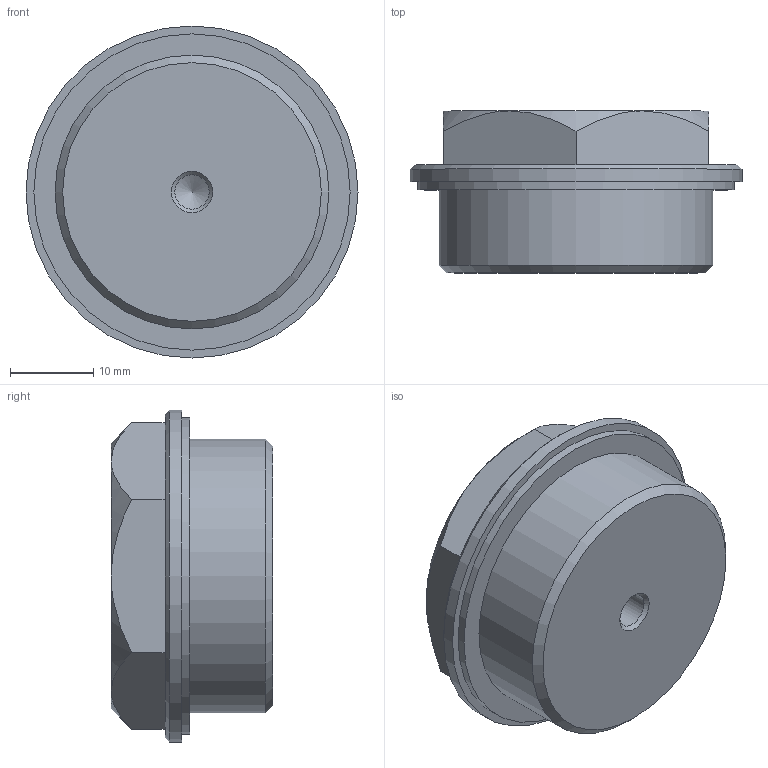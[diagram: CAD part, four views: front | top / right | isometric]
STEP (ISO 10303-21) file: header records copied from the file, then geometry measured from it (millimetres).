
FILE_DESCRIPTION( ( 'STEP AP203' ), '1' );
FILE_NAME( 'C:/Temp/Ganter_Step_05_03_2020/data/3_5/gn742/gn742_1/Threaded plug GN 742-40-M33x1,5-OS-1.stp', '2020-03-12T13:39:14', ( 'License CC BY-ND 4.0' ), ( 'CADENAS' ), ' ', 'PARTsolutions', ' ' );
FILE_SCHEMA( ( 'CONFIG_CONTROL_DESIGN' ) );
Length unit declared in the file: millimetre
Products named in the file (1): _Threaded plug GN 742-40-M33x1,5-OS-1
Bounding box: 40 x 19.5 x 40 mm (x, y, z)
Volume: 17642.4 mm3; surface area: 4681.4 mm2
Topology: 1 solids, 1 shells, 25 faces, 50 edges, 30 vertices
Faces by surface type: plane 11, cone 10, cylinder 4
Full cylindrical faces by diameter (mm): 4.134 x1, 33 x1, 38.1 x1, 40 x1
Entity records: 700 total; most frequent: CARTESIAN_POINT 181, DIRECTION 98, ORIENTED_EDGE 82, AXIS2_PLACEMENT_3D 43, EDGE_CURVE 41, EDGE_LOOP 36, VERTEX_POINT 30, FACE_OUTER_BOUND 29
